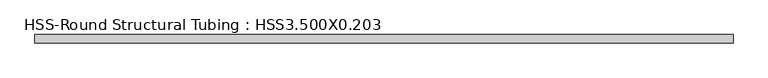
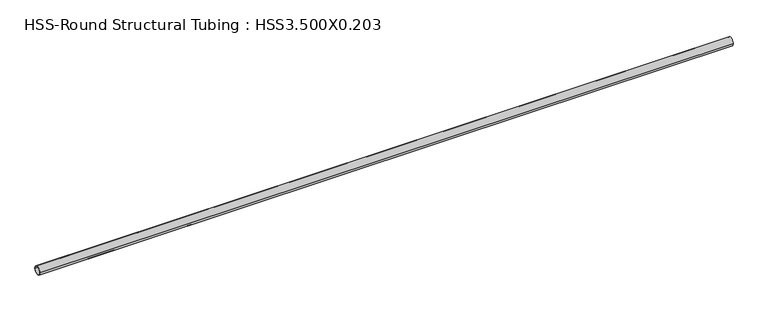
"""IFC4 building model written with IfcOpenShell, lengths in millimetres: beam geometry, HSS-Round Structural Tubing : HSS3.500X0.203."""

from ifc_helpers import new_model, si_unit, point, frame, origin, origin_2d, place, context, project, spatial, circle_curve, trimmed, segment, composite_curve, outline, extrude, source, transform, mapped, element, save


def hss_round_structural_tubing_hss3_500x0_203_f73b5b16(model_context):
    return source(origin(), model_context, "Body", "SweptSolid", [
        extrude(outline(composite_curve([segment(trimmed(circle_curve(origin_2d(), 44.45), [point((-44.45, 0.0))], [point((44.45, 0.0))], False, "CARTESIAN"), True, "CONTINUOUS"), segment(trimmed(circle_curve(origin_2d(), 44.45), [point((44.45, 0.0))], [point((-44.45, 0.0))], False, "CARTESIAN"), True, "CONTINUOUS")], self_intersect=False), holes=[composite_curve([segment(trimmed(circle_curve(origin_2d(), 39.6494), [point((39.6494, 0.0))], [point((-39.6494, 0.0))], True, "CARTESIAN"), True, "CONTINUOUS"), segment(trimmed(circle_curve(origin_2d(), 39.6494), [point((-39.6494, 0.0))], [point((39.6494, 0.0))], True, "CARTESIAN"), True, "CONTINUOUS")], self_intersect=False)]), frame((-3619.5792487, 0.0, 0.0), z_axis=(1.0, 0.0, 0.0), x_axis=(0.0, 1.0, 0.0)), (0.0, 0.0, 1.0), 7331.8881549),
    ])


if __name__ == "__main__":
    model = new_model("IFC4")
    model_context = context("Model", 3, world=origin())
    ifc_project = project(units=[si_unit("LENGTHUNIT", "METRE", prefix="MILLI")], contexts=[model_context])
    site = spatial("IfcSite", under=ifc_project)
    building = spatial("IfcBuilding", under=site)
    placement = place(None, origin())
    hss_round_structural_tubing_hss3_500x0_203_shape = hss_round_structural_tubing_hss3_500x0_203_f73b5b16(model_context)
    element("IfcBeam", 1, ObjectType="HSS-Round Structural Tubing : HSS3.500X0.203", at=placement, inside=building, context=model_context, shape_type="MappedRepresentation", body=[
        mapped(hss_round_structural_tubing_hss3_500x0_203_shape, transform((0.0, 0.0, 0.0), x_axis=(1.0, 0.0, 0.0), y_axis=(0.0, 1.0, 0.0), z_axis=(0.0, 0.0, 1.0))),
    ])
    save(model, "model.ifc")
